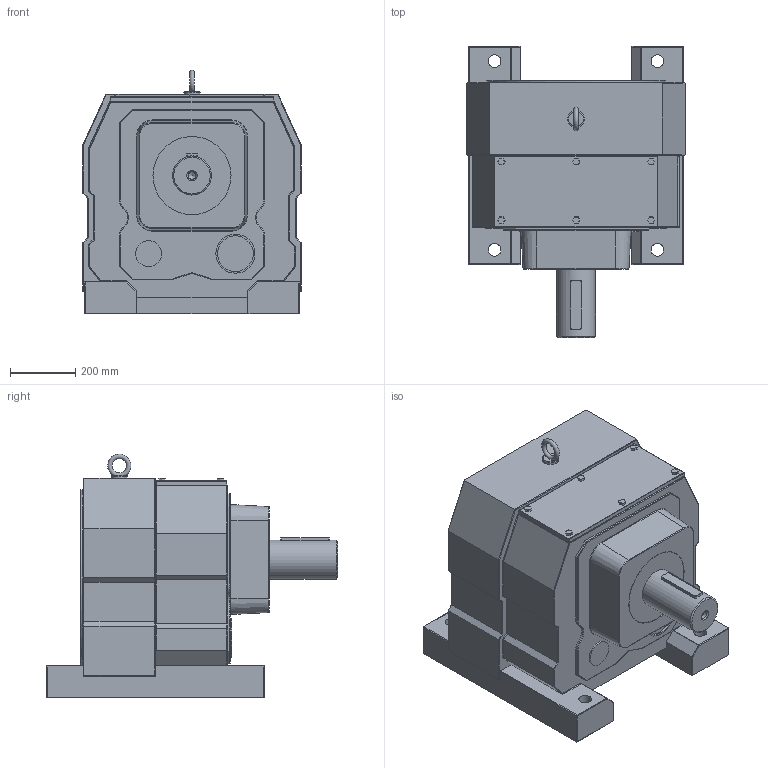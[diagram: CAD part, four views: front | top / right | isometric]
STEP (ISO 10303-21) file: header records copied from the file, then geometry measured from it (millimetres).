
FILE_DESCRIPTION((''),'2;1');
FILE_NAME('D:\PAWEŁ\ZLECENIA\2011 DualSystem\Przekładnie DR\DR160\STEP\DR160.stp','2012-06-11T12:59:34',('admin'),(''),'Autodesk Inventor 2009','Autodesk Inventor 2009','');
FILE_SCHEMA(('AUTOMOTIVE_DESIGN { 1 0 10303 214 1 1 1 1 }'));
Length unit declared in the file: millimetre
Products named in the file (1): DR160
Bounding box: 670 x 895 x 748.97 mm (x, y, z)
Volume: 208650591.4 mm3; surface area: 2826276.8 mm2
Topology: 2 solids, 2 shells, 469 faces, 1100 edges, 604 vertices
Faces by surface type: cylinder 226, plane 142, sphere 56, bspline 20, torus 19, cone 6
Full cylindrical faces by diameter (mm): 39 x4, 45 x4, 50 x1, 80 x1, 110 x1, 120 x2, 240 x1, 410 x1, 550 x1
Entity records: 14314 total; most frequent: CARTESIAN_POINT 3626, DIRECTION 2343, ORIENTED_EDGE 2036, EDGE_CURVE 1018, AXIS2_PLACEMENT_3D 890, VERTEX_POINT 600, VECTOR 563, LINE 563
